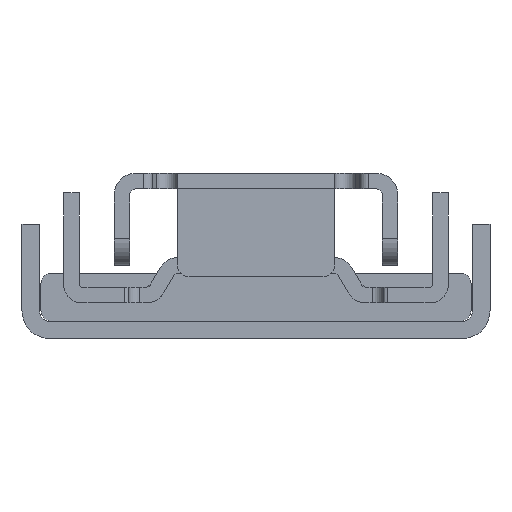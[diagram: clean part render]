
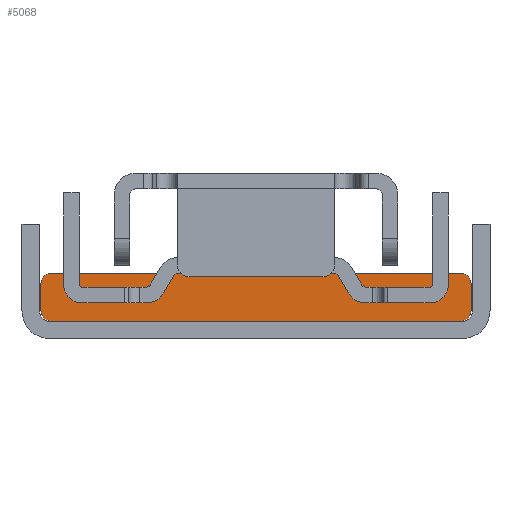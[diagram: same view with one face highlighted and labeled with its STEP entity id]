
A CAD part, front view. The second image highlights one B-rep face of the part: STEP entity #5068.
In plain terms, the highlighted planar face has unit normal (0, -1, 0) as drawn and (-1, 0, 0) by its records, which use the part's own axes.
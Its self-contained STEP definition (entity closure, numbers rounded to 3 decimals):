
#4892=DIRECTION('',(0.,0.,1.));
#4893=VECTOR('',#4892,46.6);
#4894=CARTESIAN_POINT('',(-100.5,0.,-23.3));
#4895=LINE('',#4894,#4893);
#4896=CARTESIAN_POINT('',(-100.5,1.2,23.3));
#4897=DIRECTION('',(-1.,0.,0.));
#4898=DIRECTION('',(0.,-1.,0.));
#4899=AXIS2_PLACEMENT_3D('',#4896,#4897,#4898);
#4901=CARTESIAN_POINT('',(-100.5,1.2,-23.3));
#4902=DIRECTION('',(-1.,0.,0.));
#4903=DIRECTION('',(0.,0.,-1.));
#4904=AXIS2_PLACEMENT_3D('',#4901,#4902,#4903);
#4906=DIRECTION('',(0.,1.,0.));
#4907=VECTOR('',#4906,3.1);
#4908=CARTESIAN_POINT('',(-100.5,1.2,-24.5));
#4909=LINE('',#4908,#4907);
#4910=CARTESIAN_POINT('',(-100.5,4.3,-23.3));
#4911=DIRECTION('',(-1.,0.,0.));
#4912=DIRECTION('',(0.,1.,0.));
#4913=AXIS2_PLACEMENT_3D('',#4910,#4911,#4912);
#4915=CARTESIAN_POINT('',(-100.5,4.3,23.3));
#4916=DIRECTION('',(-1.,0.,0.));
#4917=DIRECTION('',(0.,0.,1.));
#4918=AXIS2_PLACEMENT_3D('',#4915,#4916,#4917);
#4948=DIRECTION('',(0.,1.,0.));
#4949=VECTOR('',#4948,3.1);
#4950=CARTESIAN_POINT('',(-100.5,1.2,24.5));
#4951=LINE('',#4950,#4949);
#4960=DIRECTION('',(0.,0.,1.));
#4961=VECTOR('',#4960,46.6);
#4962=CARTESIAN_POINT('',(-100.5,5.5,-23.3));
#4963=LINE('',#4962,#4961);
#4984=CARTESIAN_POINT('',(-100.5,0.,23.3));
#4985=CARTESIAN_POINT('',(-100.5,1.2,24.5));
#4986=VERTEX_POINT('',#4984);
#4987=VERTEX_POINT('',#4985);
#4996=CARTESIAN_POINT('',(-100.5,4.3,24.5));
#4997=VERTEX_POINT('',#4996);
#4998=CARTESIAN_POINT('',(-100.5,5.5,23.3));
#4999=VERTEX_POINT('',#4998);
#5000=CARTESIAN_POINT('',(-100.5,5.5,-23.3));
#5001=CARTESIAN_POINT('',(-100.5,4.3,-24.5));
#5002=VERTEX_POINT('',#5000);
#5003=VERTEX_POINT('',#5001);
#5012=CARTESIAN_POINT('',(-100.5,1.2,-24.5));
#5013=VERTEX_POINT('',#5012);
#5014=CARTESIAN_POINT('',(-100.5,0.,-23.3));
#5015=VERTEX_POINT('',#5014);
#5047=CARTESIAN_POINT('',(-100.5,0.,-24.5));
#5048=DIRECTION('',(-1.,0.,0.));
#5049=DIRECTION('',(0.,0.,1.));
#5050=AXIS2_PLACEMENT_3D('',#5047,#5048,#5049);
#5051=PLANE('',#5050);
#5052=ORIENTED_EDGE('',*,*,#5037,.F.);
#5053=ORIENTED_EDGE('',*,*,#5027,.F.);
#5055=ORIENTED_EDGE('',*,*,#5054,.F.);
#5057=ORIENTED_EDGE('',*,*,#5056,.T.);
#5059=ORIENTED_EDGE('',*,*,#5058,.F.);
#5061=ORIENTED_EDGE('',*,*,#5060,.T.);
#5063=ORIENTED_EDGE('',*,*,#5062,.F.);
#5065=ORIENTED_EDGE('',*,*,#5064,.F.);
#5066=EDGE_LOOP('',(#5052,#5053,#5055,#5057,#5059,#5061,#5063,#5065));
#5067=FACE_OUTER_BOUND('',#5066,.F.);
#5068=ADVANCED_FACE('',(#5067),#5051,.T.);
#4900=CIRCLE('',#4899,1.2);
#4905=CIRCLE('',#4904,1.2);
#4914=CIRCLE('',#4913,1.2);
#4919=CIRCLE('',#4918,1.2);
#5027=EDGE_CURVE('',#5015,#4986,#4895,.T.);
#5037=EDGE_CURVE('',#4986,#4987,#4900,.T.);
#5054=EDGE_CURVE('',#5013,#5015,#4905,.T.);
#5056=EDGE_CURVE('',#5013,#5003,#4909,.T.);
#5058=EDGE_CURVE('',#5002,#5003,#4914,.T.);
#5060=EDGE_CURVE('',#5002,#4999,#4963,.T.);
#5062=EDGE_CURVE('',#4997,#4999,#4919,.T.);
#5064=EDGE_CURVE('',#4987,#4997,#4951,.T.);
